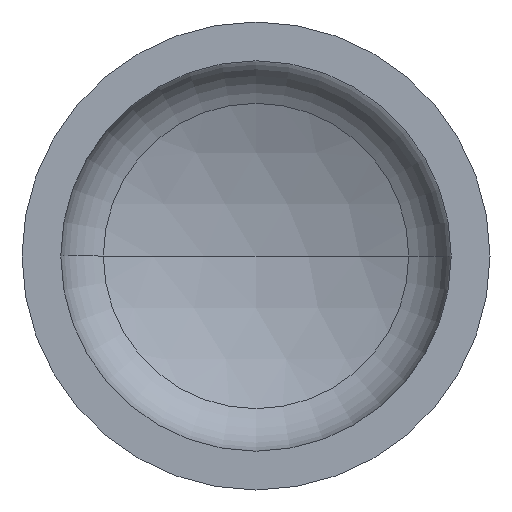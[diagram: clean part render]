
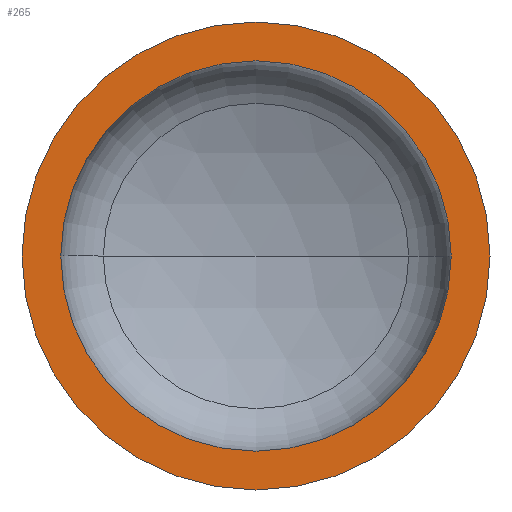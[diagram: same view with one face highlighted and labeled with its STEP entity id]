
A CAD part, front view. The second image highlights one B-rep face of the part: STEP entity #265.
In plain terms, the highlighted planar face has unit normal (0, -1, 0).
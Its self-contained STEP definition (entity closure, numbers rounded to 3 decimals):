
#1 = CARTESIAN_POINT ( 'NONE',  ( -700., 0., 0. ) ) ;
#9 = EDGE_LOOP ( 'NONE', ( #144, #405 ) ) ;
#29 = AXIS2_PLACEMENT_3D ( 'NONE', #164, #106, #111 ) ;
#33 = AXIS2_PLACEMENT_3D ( 'NONE', #246, #231, #229 ) ;
#42 = VERTEX_POINT ( 'NONE', #236 ) ;
#52 = ORIENTED_EDGE ( 'NONE', *, *, #79, .F. ) ;
#61 = AXIS2_PLACEMENT_3D ( 'NONE', #338, #334, #333 ) ;
#64 = AXIS2_PLACEMENT_3D ( 'NONE', #312, #311, #182 ) ;
#74 = EDGE_LOOP ( 'NONE', ( #52, #113 ) ) ;
#75 = DIRECTION ( 'NONE',  ( 1., 0., 0. ) ) ;
#78 = EDGE_CURVE ( 'NONE', #143, #141, #337, .T. ) ;
#79 = EDGE_CURVE ( 'NONE', #112, #42, #394, .T. ) ;
#106 = DIRECTION ( 'NONE',  ( 0., -1., 0. ) ) ;
#111 = DIRECTION ( 'NONE',  ( 1., 0., 0. ) ) ;
#112 = VERTEX_POINT ( 'NONE', #200 ) ;
#113 = ORIENTED_EDGE ( 'NONE', *, *, #395, .F. ) ;
#141 = VERTEX_POINT ( 'NONE', #289 ) ;
#143 = VERTEX_POINT ( 'NONE', #1 ) ;
#144 = ORIENTED_EDGE ( 'NONE', *, *, #339, .T. ) ;
#164 = CARTESIAN_POINT ( 'NONE',  ( 0., 0., 0. ) ) ;
#181 = FACE_OUTER_BOUND ( 'NONE', #9, .T. ) ;
#182 = DIRECTION ( 'NONE',  ( 1., 0., 0. ) ) ;
#200 = CARTESIAN_POINT ( 'NONE',  ( 584., 0., 0. ) ) ;
#229 = DIRECTION ( 'NONE',  ( -1., 0., 0. ) ) ;
#231 = DIRECTION ( 'NONE',  ( 0., 1., 0. ) ) ;
#236 = CARTESIAN_POINT ( 'NONE',  ( -584., 0., 0. ) ) ;
#246 = CARTESIAN_POINT ( 'NONE',  ( -700., 0., 0. ) ) ;
#259 = AXIS2_PLACEMENT_3D ( 'NONE', #406, #266, #75 ) ;
#260 = PLANE ( 'NONE',  #33 ) ;
#262 = CIRCLE ( 'NONE', #259, 584. ) ;
#265 = ADVANCED_FACE ( 'NONE', ( #323, #181 ), #260, .F. ) ;
#266 = DIRECTION ( 'NONE',  ( 0., -1., 0. ) ) ;
#289 = CARTESIAN_POINT ( 'NONE',  ( 700., 0., 0. ) ) ;
#311 = DIRECTION ( 'NONE',  ( 0., -1., 0. ) ) ;
#312 = CARTESIAN_POINT ( 'NONE',  ( 0., 0., 0. ) ) ;
#323 = FACE_BOUND ( 'NONE', #74, .T. ) ;
#333 = DIRECTION ( 'NONE',  ( 1., 0., 0. ) ) ;
#334 = DIRECTION ( 'NONE',  ( 0., -1., 0. ) ) ;
#337 = CIRCLE ( 'NONE', #64, 700. ) ;
#338 = CARTESIAN_POINT ( 'NONE',  ( 0., 0., 0. ) ) ;
#339 = EDGE_CURVE ( 'NONE', #141, #143, #364, .T. ) ;
#364 = CIRCLE ( 'NONE', #29, 700. ) ;
#394 = CIRCLE ( 'NONE', #61, 584. ) ;
#395 = EDGE_CURVE ( 'NONE', #42, #112, #262, .T. ) ;
#405 = ORIENTED_EDGE ( 'NONE', *, *, #78, .T. ) ;
#406 = CARTESIAN_POINT ( 'NONE',  ( 0., 0., 0. ) ) ;
